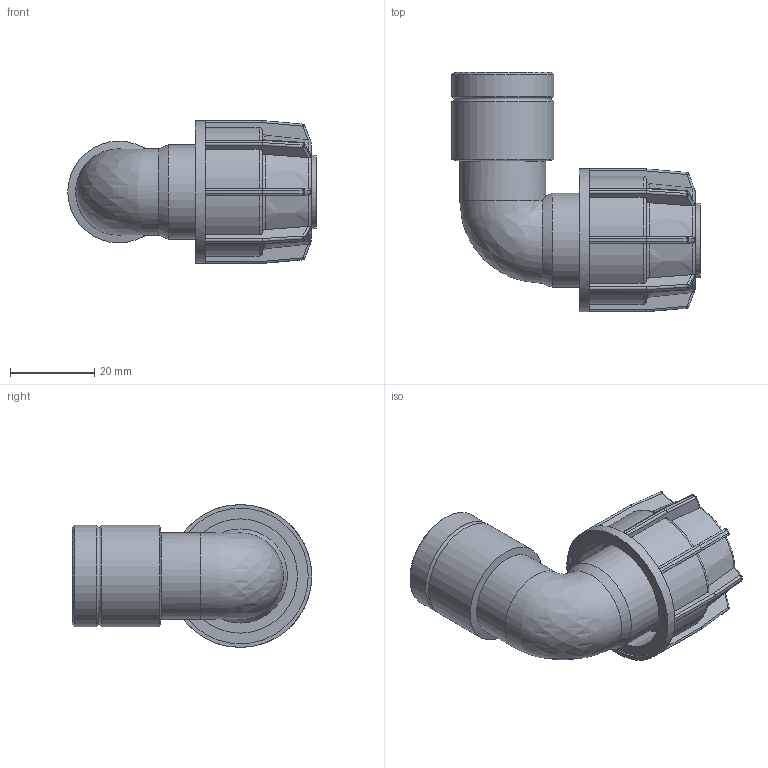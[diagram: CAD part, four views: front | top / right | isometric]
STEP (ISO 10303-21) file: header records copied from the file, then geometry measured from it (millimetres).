
FILE_DESCRIPTION(/* description */ ('PLASSON IRRIFIT ELBOW 16-1/2"F'),/* implementation_level */ '2;1');
FILE_NAME(/* name */ 'C:\Dropbox\KIMPROJECTS-Inventor\99-16-3568-Processing\Silver+MF ISRAEL\041507\041507016005.ipt.stp',/* time_stamp */ '2018-04-09T12:59:56+03:00',/* author */ ('KIM'),/* organization */ (''),/* preprocessor_version */ 'ST-DEVELOPER v15.6',/* originating_system */ 'Autodesk Inventor 2015',/* authorisation */ '');
FILE_SCHEMA (('AUTOMOTIVE_DESIGN { 1 0 10303 214 3 1 1 }'));
Length unit declared in the file: millimetre
Products named in the file (1): 041507016005
Bounding box: 59.11 x 57 x 34 mm (x, y, z)
Volume: 21021.9 mm3; surface area: 14457.2 mm2
Topology: 1 solids, 1 shells, 275 faces, 650 edges, 374 vertices
Faces by surface type: plane 128, cylinder 84, sphere 32, torus 19, cone 11, bspline 1
Full cylindrical faces by diameter (mm): 16 x2, 17.6 x1, 18.631 x1, 19.2 x1, 20.494 x1, 22.4 x1, 24.22 x2, 27.2 x1, 32.3 x1, 34 x1
Entity records: 8070 total; most frequent: CARTESIAN_POINT 2102, DIRECTION 1256, ORIENTED_EDGE 1220, EDGE_CURVE 610, AXIS2_PLACEMENT_3D 508, VERTEX_POINT 361, EDGE_LOOP 301, FACE_OUTER_BOUND 275
